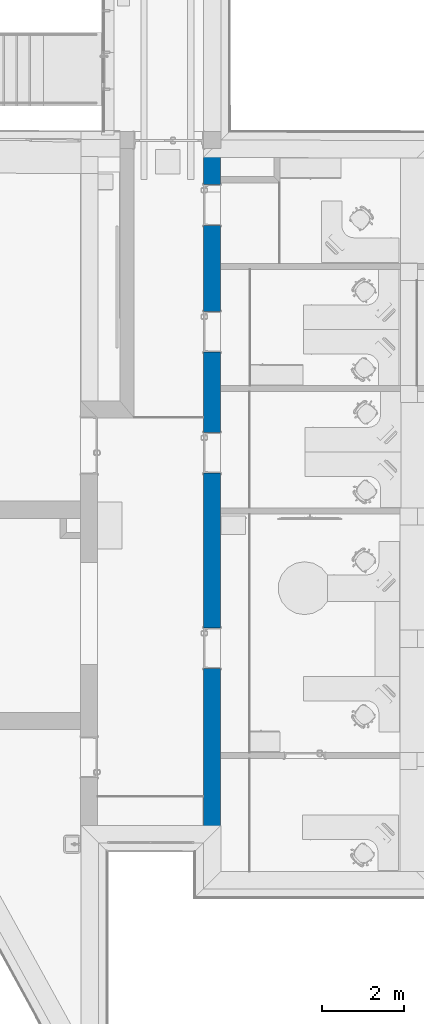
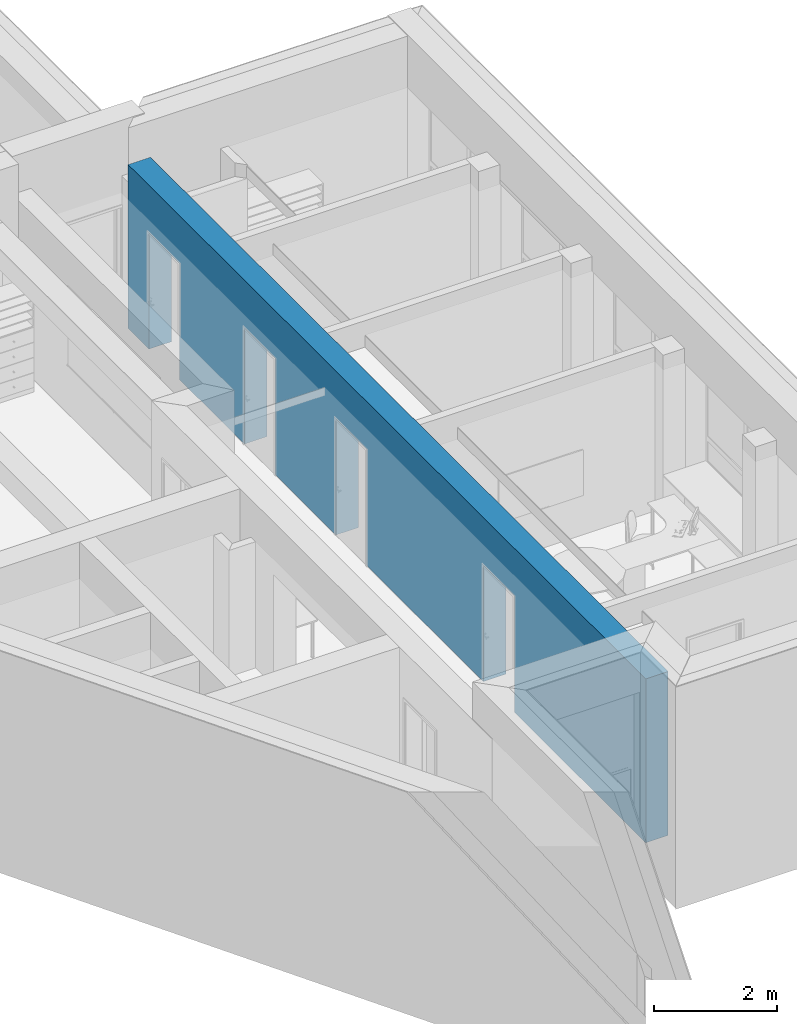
# One storey, part 3 of 194: 1 wall, 4 openings.
"""IFC2X3 building model written with IfcOpenShell, lengths in millimetres."""

from ifc_helpers import new_model, entity, si_unit, converted_unit, derived_unit, money_unit, direction, frame, origin_with_axes, origin_2d_with_axis, place, context, subcontext, project, spatial, polyline, rectangle, outline, extrude, material, layer, layer_set, layer_usage, type_object, element, save


model = new_model("IFC2X3")

# Units and contexts
model_context = context("Model", 3, precision=1e-05, world=origin_with_axes(), true_north=direction((0.0, 1.0)))
body_context = subcontext(model_context, "Body", "Model", "MODEL_VIEW")
ifc_project = project(units=[si_unit("LENGTHUNIT", "METRE", prefix="MILLI"), si_unit("AREAUNIT", "SQUARE_METRE"), si_unit("VOLUMEUNIT", "CUBIC_METRE"), converted_unit("PLANEANGLEUNIT", "DEGREE", entity("IfcPlaneAngleMeasure", 0.0174532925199), si_unit("PLANEANGLEUNIT", "RADIAN"), dimensions=[0, 0, 0, 0, 0, 0, 0]), si_unit("SOLIDANGLEUNIT", "STERADIAN"), money_unit("EUR"), converted_unit("TIMEUNIT", "Year", entity("IfcTimeMeasure", 31556926.0), si_unit("TIMEUNIT", "SECOND"), dimensions=[0, 0, 1, 0, 0, 0, 0]), si_unit("MASSUNIT", "GRAM", prefix="KILO"), si_unit("THERMODYNAMICTEMPERATUREUNIT", "DEGREE_CELSIUS"), si_unit("LUMINOUSINTENSITYUNIT", "LUMEN"), si_unit("ENERGYUNIT", "JOULE", prefix="MEGA"), derived_unit("THERMALCONDUCTANCEUNIT", [(si_unit("POWERUNIT", "WATT"), 1), (si_unit("LENGTHUNIT", "METRE"), -1), (si_unit("THERMODYNAMICTEMPERATUREUNIT", "KELVIN"), -1)]), derived_unit("SPECIFICHEATCAPACITYUNIT", [(si_unit("ENERGYUNIT", "JOULE"), 1), (si_unit("MASSUNIT", "GRAM", prefix="KILO"), -1), (si_unit("THERMODYNAMICTEMPERATUREUNIT", "KELVIN"), -1)]), derived_unit("MASSDENSITYUNIT", [(si_unit("MASSUNIT", "GRAM", prefix="KILO"), 1), (si_unit("VOLUMEUNIT", "CUBIC_METRE"), -1)])], contexts=[model_context])

# Site, building, storey
site_placement = place(None, origin_with_axes())
site = spatial("IfcSite", under=ifc_project, at=site_placement, Name="Site", CompositionType="ELEMENT")
building_placement = place(site_placement, origin_with_axes())
building = spatial("IfcBuilding", under=site, at=building_placement, Name="Building", CompositionType="ELEMENT")
storey_placement = place(building_placement, frame((0.0, 0.0, 3000.0), z_axis=(0.0, 0.0, 1.0), x_axis=(1.0, 0.0, 0.0)))
storey = spatial("IfcBuildingStorey", under=building, at=storey_placement, Name="2 KORRUS", CompositionType="ELEMENT", Elevation=3000.0)

# Wall, openings
ifc_material = material(Name="Kivi -Ol.Olev Konstruktsioon")
ifc_layer = layer(ifc_material, 420.0, ventilated="UNKNOWN")
ifc_layer_set = layer_set([ifc_layer], Name="ol.olev ss 420")
ifc_layer_usage = layer_usage(ifc_layer_set, "AXIS2", "POSITIVE", 0.0)
wall_type = type_object("IfcWallType", Name="SW - 026", PredefinedType="NOTDEFINED")
wall_placement = place(storey_placement, frame((39738.0685274, 22342.4000779, 0.0), z_axis=(0.0, 0.0, 1.0), x_axis=(0.0, -1.0, 0.0)))
wall = element("IfcWallStandardCase", 1, at=wall_placement, inside=storey, type_object=wall_type, material=ifc_layer_usage, Name="ol.olev ss 420", context=body_context, shape_type="SweptSolid", body=[
    extrude(outline(polyline([(0.0, 0.0), (16816.8159397, 0.0), (16816.8159397, 420.0), (0.0, 420.0), (0.0, 0.0)])), origin_with_axes(), (0.0, 0.0, 1.0), 3250.0),
])
opening_1_placement = place(wall_placement, frame((1176.3742172, 0.0, 0.0), z_axis=(0.0, 0.0, 1.0), x_axis=(1.0, 0.0, 0.0)))
element("IfcOpeningElement", 2, at=opening_1_placement, cuts=wall, Name="Siseuks * Door 22", context=body_context, shape_type="SweptSolid", body=[
    extrude(rectangle(XDim=1000.0, YDim=2300.0, at=origin_2d_with_axis()), frame((0.0, 420.0, 1150.0), z_axis=(0.0, 1.0, 0.0), x_axis=(1.0, 0.0, 0.0)), (0.0, 0.0, -1.0), 1260.0),
    extrude(rectangle(XDim=1074.0, YDim=2337.0, at=origin_2d_with_axis()), frame((0.0, 420.0, 1168.5), z_axis=(0.0, 1.0, 0.0), x_axis=(1.0, 0.0, 0.0)), (0.0, 0.0, 1.0), 420.0),
    extrude(rectangle(XDim=1074.0, YDim=2337.0, at=origin_2d_with_axis()), frame((0.0, 0.0, 1168.5), z_axis=(0.0, -1.0, 0.0), x_axis=(1.0, 0.0, 0.0)), (0.0, 0.0, 1.0), 420.0),
])
opening_2_placement = place(wall_placement, frame((4280.22454312, 0.0, 0.0), z_axis=(0.0, 0.0, 1.0), x_axis=(1.0, 0.0, 0.0)))
element("IfcOpeningElement", 3, at=opening_2_placement, cuts=wall, Name="Siseuks * Door 22", context=body_context, shape_type="SweptSolid", body=[
    extrude(rectangle(XDim=1000.0, YDim=2300.0, at=origin_2d_with_axis()), frame((0.0, 420.0, 1150.0), z_axis=(0.0, 1.0, 0.0), x_axis=(1.0, 0.0, 0.0)), (0.0, 0.0, -1.0), 1260.0),
    extrude(rectangle(XDim=1074.0, YDim=2337.0, at=origin_2d_with_axis()), frame((0.0, 420.0, 1168.5), z_axis=(0.0, 1.0, 0.0), x_axis=(1.0, 0.0, 0.0)), (0.0, 0.0, 1.0), 420.0),
    extrude(rectangle(XDim=1074.0, YDim=2337.0, at=origin_2d_with_axis()), frame((0.0, 0.0, 1168.5), z_axis=(0.0, -1.0, 0.0), x_axis=(1.0, 0.0, 0.0)), (0.0, 0.0, 1.0), 420.0),
])
opening_3_placement = place(wall_placement, frame((7252.20226732, 0.0, 0.0), z_axis=(0.0, 0.0, 1.0), x_axis=(1.0, 0.0, 0.0)))
element("IfcOpeningElement", 4, at=opening_3_placement, cuts=wall, Name="Siseuks * Door 22", context=body_context, shape_type="SweptSolid", body=[
    extrude(rectangle(XDim=1000.0, YDim=2300.0, at=origin_2d_with_axis()), frame((0.0, 420.0, 1150.0), z_axis=(0.0, 1.0, 0.0), x_axis=(1.0, 0.0, 0.0)), (0.0, 0.0, -1.0), 1260.0),
    extrude(rectangle(XDim=1074.0, YDim=2337.0, at=origin_2d_with_axis()), frame((0.0, 420.0, 1168.5), z_axis=(0.0, 1.0, 0.0), x_axis=(1.0, 0.0, 0.0)), (0.0, 0.0, 1.0), 420.0),
    extrude(rectangle(XDim=1074.0, YDim=2337.0, at=origin_2d_with_axis()), frame((0.0, 0.0, 1168.5), z_axis=(0.0, -1.0, 0.0), x_axis=(1.0, 0.0, 0.0)), (0.0, 0.0, 1.0), 420.0),
])
opening_4_placement = place(wall_placement, frame((12044.6795642, 0.0, 0.0), z_axis=(0.0, 0.0, 1.0), x_axis=(1.0, 0.0, 0.0)))
element("IfcOpeningElement", 5, at=opening_4_placement, cuts=wall, Name="Siseuks * Door 22", context=body_context, shape_type="SweptSolid", body=[
    extrude(rectangle(XDim=1000.0, YDim=2300.0, at=origin_2d_with_axis()), frame((0.0, 420.0, 1150.0), z_axis=(0.0, 1.0, 0.0), x_axis=(1.0, 0.0, 0.0)), (0.0, 0.0, -1.0), 1260.0),
    extrude(rectangle(XDim=1074.0, YDim=2337.0, at=origin_2d_with_axis()), frame((0.0, 420.0, 1168.5), z_axis=(0.0, 1.0, 0.0), x_axis=(1.0, 0.0, 0.0)), (0.0, 0.0, 1.0), 420.0),
    extrude(rectangle(XDim=1074.0, YDim=2337.0, at=origin_2d_with_axis()), frame((0.0, 0.0, 1168.5), z_axis=(0.0, -1.0, 0.0), x_axis=(1.0, 0.0, 0.0)), (0.0, 0.0, 1.0), 420.0),
])

save(model, "model.ifc")
